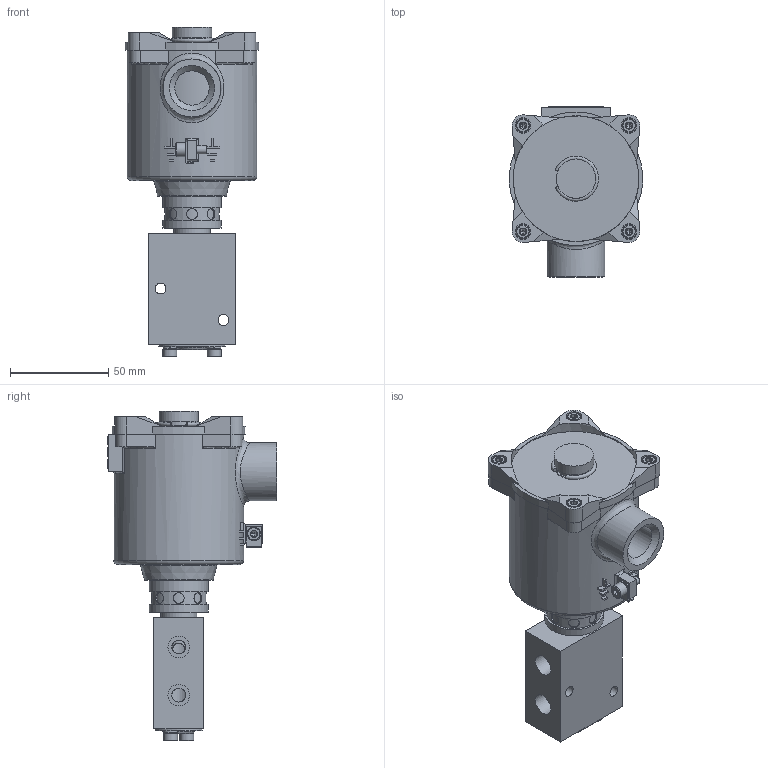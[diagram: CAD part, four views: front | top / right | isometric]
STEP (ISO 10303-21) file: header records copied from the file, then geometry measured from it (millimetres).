
FILE_DESCRIPTION(/* description */ ('Unknown'),/* implementation_level */ '2;1');
FILE_NAME(/* name */ 'FP06P-S1-04-32-NU-X-77X-X-X',/* time_stamp */ '2022-02-02T11:03:51+00:00',/* author */ ('Unknown'),/* organization */ ('Unknown'),/* preprocessor_version */ 'ST-DEVELOPER v16.7',/* originating_system */ 'Solid Edge',/* authorisation */ 'Unknown');
FILE_SCHEMA (('AUTOMOTIVE_DESIGN {1 0 10303 214 3 1 1}'));
Length unit declared in the file: millimetre
Products named in the file (3): fp06p-s1-04-32-nu-x-77x-x-x; 77x; fp06p-s1-04
Assembly tree (2 placements, depth 2):
  fp06p-s1-04-32-nu-x-77x-x-x
    77x
    fp06p-s1-04
Bounding box: 67.78 x 86.5 x 167.9 mm (x, y, z)
Volume: 336677.2 mm3; surface area: 51625.1 mm2
Topology: 2 solids, 5 shells, 612 faces, 1471 edges, 958 vertices
Faces by surface type: plane 395, cylinder 127, cone 37, torus 31, bspline 21, sphere 1
Full cylindrical faces by diameter (mm): 3.12 x3, 3.14 x3, 3.3 x7, 4 x4, 4.2 x3, 5.5 x10, 6 x4, 7 x10, 8 x4, 9.52 x2, 9.525 x1, 9.72 x1, 10 x1, 11.001 x3, 12.85 x3, 15.875 x4, 16 x1, 17.5 x1, 18.1 x1, 18.5 x2, 18.7 x1, 18.917 x1, 20 x3, 25.4 x1, 28 x1, 29.5 x1, 30 x2, 64 x1, 66 x1
Entity records: 22409 total; most frequent: CARTESIAN_POINT 4774, DIRECTION 2668, ORIENTED_EDGE 2524, EDGE_CURVE 1262, AXIS2_PLACEMENT_3D 950, VERTEX_POINT 893, FACE_BOUND 871, EDGE_LOOP 869
